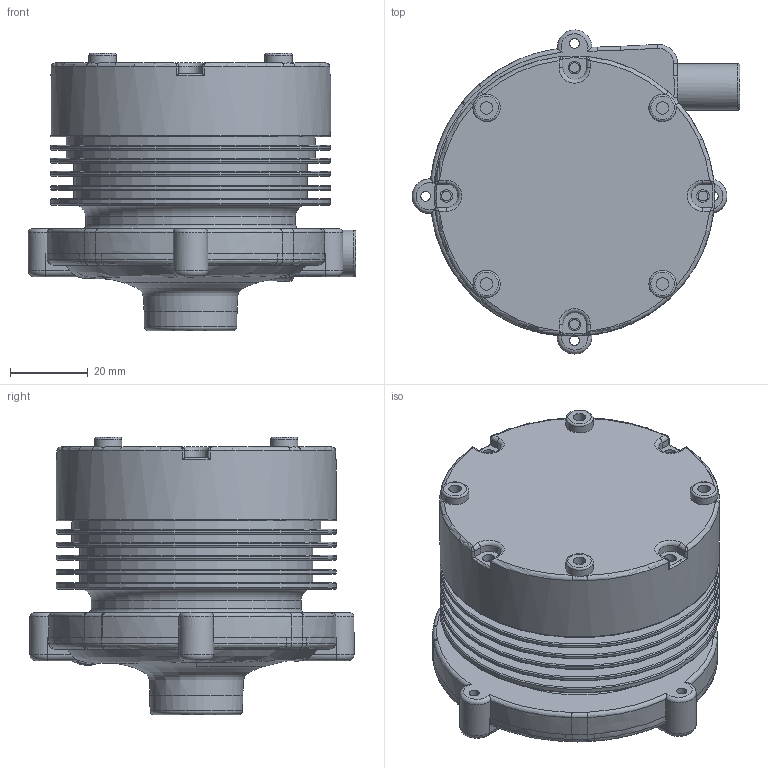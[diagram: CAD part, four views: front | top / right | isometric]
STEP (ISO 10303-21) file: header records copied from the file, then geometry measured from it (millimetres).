
FILE_DESCRIPTION(/* description */ (''),/* implementation_level */ '2;1');
FILE_NAME(/* name */ '4-8-2',/* time_stamp */ '2024-04-08T19:34:37+08:00',/* author */ (''),/* organization */ (''),/* preprocessor_version */ 'ST-DEVELOPER v9',/* originating_system */ 'UGS - NX 4.0',/* authorisation */ '');
FILE_SCHEMA (('AUTOMOTIVE_DESIGN { 1 0 10303 214 1 1 1 1 }'));
Length unit declared in the file: millimetre
Products named in the file (1): AdmiD9C6kxq4
Bounding box: 84.26 x 83.32 x 71.34 mm (x, y, z)
Volume: 211183.9 mm3; surface area: 36934.7 mm2
Topology: 1 solids, 1 shells, 289 faces, 698 edges, 432 vertices
Faces by surface type: cylinder 95, plane 80, torus 51, bspline 48, extrusion 12, revolution 2, cone 1
Full cylindrical faces by diameter (mm): 2.5 x8, 3.2 x12, 7 x4, 12 x1, 54 x1, 60 x3, 64 x2, 72 x6
Entity records: 11343 total; most frequent: CARTESIAN_POINT 5532, ORIENTED_EDGE 1218, DIRECTION 1040, EDGE_CURVE 609, AXIS2_PLACEMENT_3D 453, VERTEX_POINT 409, EDGE_LOOP 384, ADVANCED_FACE 289
